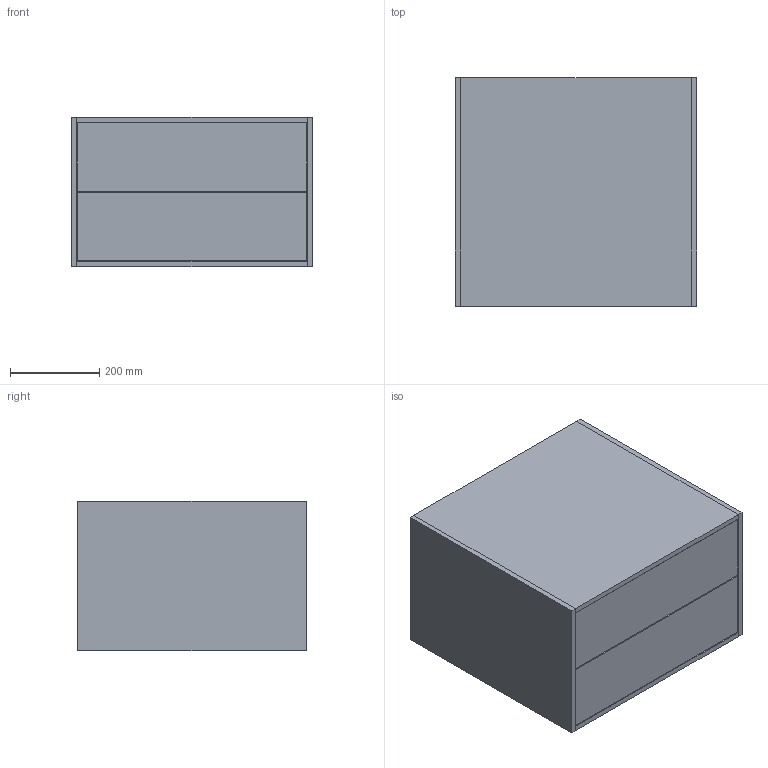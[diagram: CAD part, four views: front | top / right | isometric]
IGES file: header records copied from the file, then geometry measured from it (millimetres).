
Start section: Data from Parasolid IGES Translator 19.0.9, Copyright(c) 2006 Siemens PL M Software. All Rights Reserved.
Global section: file name: noorth-FJ-H 33,5 D 51,2 W 54_2595.igs; native system: By Siemens PLM Incorporated; preprocessor: XPlus GENERIC/IGES 19.0.9; author: Noname; organization: Noname; date: 20200507.120121; units: metre
Bounding box: 540 x 512 x 335 mm (x, y, z)
Volume: 13925046 mm3; surface area: 2522766 mm2
Topology: 7 solids, 7 shells, 42 faces, 84 edges, 56 vertices
Faces by surface type: plane 42
